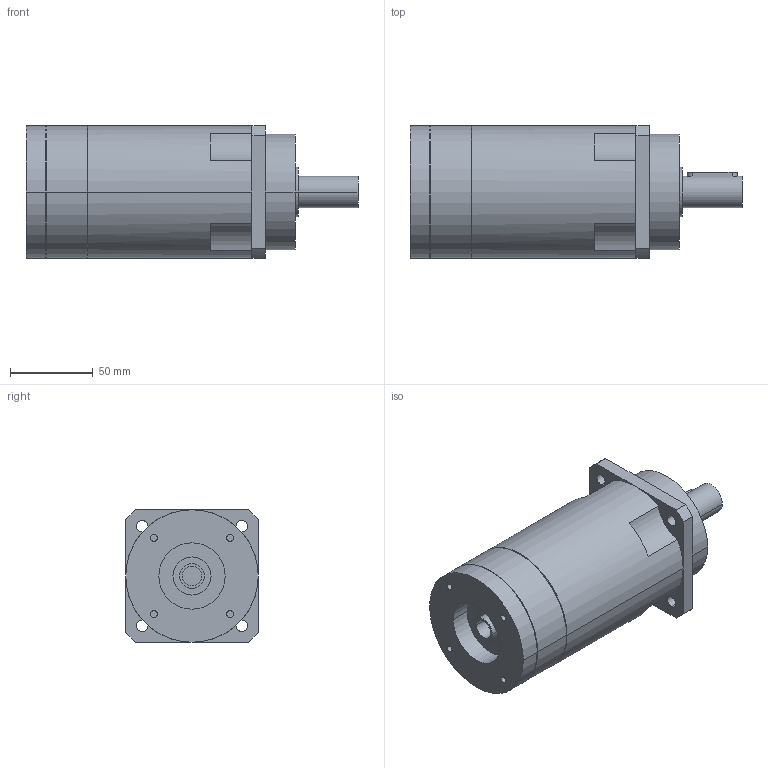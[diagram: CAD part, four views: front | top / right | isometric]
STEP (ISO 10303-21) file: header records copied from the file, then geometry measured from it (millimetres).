
FILE_DESCRIPTION(('CoCreate Modeling STEP Export'),'2;1');
FILE_NAME('GPR100_ig-48-64-80-100-120-144-180-216_19_B5_12.7_P26.stp','2014-08-26T11:54:35',(''),(''),'CoCreate Modeling STEP processor for AP214 (Solid Model)','CoCreate Modeling 16.00C 25-Feb-2009 (C) Parametric Technology GmbH','');
FILE_SCHEMA(('AUTOMOTIVE_DESIGN { 1 0 10303 214 1 1 1 1 }'));
Length unit declared in the file: millimetre
Products named in the file (2): GPR100_ig-48-64-80-100-120-144-180-216_19_B5_12.7_P26
Assembly tree (1 placements, depth 2):
  GPR100_ig-48-64-80-100-120-144-180-216_19_B5_12.7_P26
    GPR100_ig-48-64-80-100-120-144-180-216_19_B5_12.7_P26
Bounding box: 200.4 x 80 x 80 mm (x, y, z)
Volume: 790507.4 mm3; surface area: 60694.4 mm2
Topology: 1 solids, 1 shells, 84 faces, 214 edges, 144 vertices
Faces by surface type: cylinder 48, plane 30, cone 6
Entity records: 2289 total; most frequent: ORIENTED_EDGE 424, CARTESIAN_POINT 416, DIRECTION 336, EDGE_CURVE 212, VERTEX_POINT 144, AXIS2_PLACEMENT_3D 128, EDGE_LOOP 106, FACE_OUTER_BOUND 84
